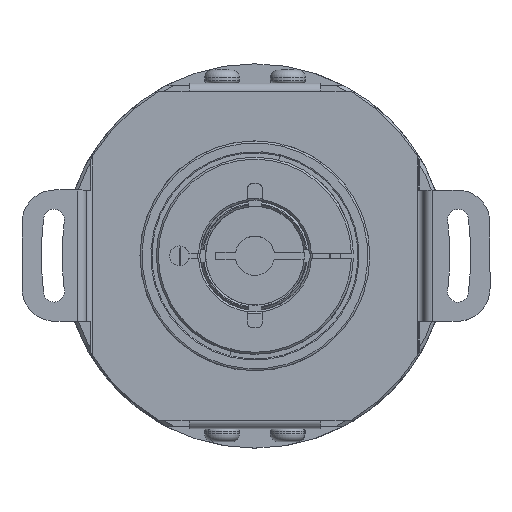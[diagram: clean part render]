
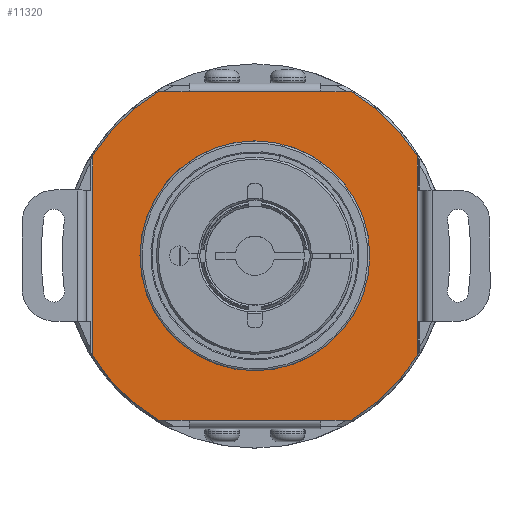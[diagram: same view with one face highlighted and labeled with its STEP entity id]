
A CAD part, top view. The second image highlights one B-rep face of the part: STEP entity #11320.
In plain terms, the highlighted planar face has unit normal (0, 0, 1).
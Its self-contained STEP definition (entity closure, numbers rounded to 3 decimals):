
#4415 = CARTESIAN_POINT ( 'NONE',  ( -10., 25., 4.194 ) ) ;
#4527 = CARTESIAN_POINT ( 'NONE',  ( 0., 17.5, 4.194 ) ) ;
#4528 = DIRECTION ( 'NONE',  ( 0., 1., 0. ) ) ;
#4529 = DIRECTION ( 'NONE',  ( 0., 0., 1. ) ) ;
#4530 = CARTESIAN_POINT ( 'NONE',  ( 0., 0., 4.194 ) ) ;
#4531 = AXIS2_PLACEMENT_3D ( 'NONE', #4530, #4529, #4528 ) ;
#4532 = CIRCLE ( 'NONE', #4531, 17.5 ) ;
#4575 = CARTESIAN_POINT ( 'NONE',  ( 0., -17.5, 4.194 ) ) ;
#4714 = CARTESIAN_POINT ( 'NONE',  ( 10., 25., 4.194 ) ) ;
#4715 = DIRECTION ( 'NONE',  ( 1., 0., 0. ) ) ;
#4716 = VECTOR ( 'NONE', #4715, 1000. ) ;
#4717 = CARTESIAN_POINT ( 'NONE',  ( 25., 25., 4.194 ) ) ;
#4718 = LINE ( 'NONE', #4717, #4716 ) ;
#4724 = DIRECTION ( 'NONE',  ( 1., 0., 0. ) ) ;
#4725 = VECTOR ( 'NONE', #4724, 1000. ) ;
#4726 = CARTESIAN_POINT ( 'NONE',  ( 5., 25., 4.194 ) ) ;
#4727 = LINE ( 'NONE', #4726, #4725 ) ;
#4749 = CARTESIAN_POINT ( 'NONE',  ( 24.7, 15.196, 4.194 ) ) ;
#4750 = DIRECTION ( 'NONE',  ( 0., 1., 0. ) ) ;
#4751 = DIRECTION ( 'NONE',  ( 0., 0., 1. ) ) ;
#4752 = CARTESIAN_POINT ( 'NONE',  ( 5., 35.2, 4.194 ) ) ;
#4753 = AXIS2_PLACEMENT_3D ( 'NONE', #4752, #4751, #4750 ) ;
#4754 = PLANE ( 'NONE',  #4753 ) ;
#4755 = FACE_BOUND ( 'NONE', #11352, .T. ) ;
#4756 = FACE_OUTER_BOUND ( 'NONE', #11303, .T. ) ;
#4757 = CARTESIAN_POINT ( 'NONE',  ( 14.697, 25., 4.194 ) ) ;
#4758 = DIRECTION ( 'NONE',  ( 0., 1., 0. ) ) ;
#4759 = DIRECTION ( 'NONE',  ( 0., 0., 1. ) ) ;
#4760 = CARTESIAN_POINT ( 'NONE',  ( 0., 0., 4.194 ) ) ;
#4761 = AXIS2_PLACEMENT_3D ( 'NONE', #4760, #4759, #4758 ) ;
#4762 = CIRCLE ( 'NONE', #4761, 29. ) ;
#4772 = CARTESIAN_POINT ( 'NONE',  ( -10., -25., 4.194 ) ) ;
#4773 = DIRECTION ( 'NONE',  ( -1., 0., 0. ) ) ;
#4774 = VECTOR ( 'NONE', #4773, 1000. ) ;
#4775 = CARTESIAN_POINT ( 'NONE',  ( -25., -25., 4.194 ) ) ;
#4776 = LINE ( 'NONE', #4775, #4774 ) ;
#4806 = DIRECTION ( 'NONE',  ( -1., 0., 0. ) ) ;
#4807 = DIRECTION ( 'NONE',  ( 0., 0., 1. ) ) ;
#4808 = CARTESIAN_POINT ( 'NONE',  ( 0., 0., 4.194 ) ) ;
#4809 = AXIS2_PLACEMENT_3D ( 'NONE', #4808, #4807, #4806 ) ;
#4810 = CIRCLE ( 'NONE', #4809, 29. ) ;
#4812 = DIRECTION ( 'NONE',  ( 1., 0., 0. ) ) ;
#4813 = VECTOR ( 'NONE', #4812, 1000. ) ;
#4814 = CARTESIAN_POINT ( 'NONE',  ( 5., -25., 4.194 ) ) ;
#4815 = LINE ( 'NONE', #4814, #4813 ) ;
#4820 = CARTESIAN_POINT ( 'NONE',  ( -14.697, -25., 4.194 ) ) ;
#4825 = DIRECTION ( 'NONE',  ( 0., -1., 0. ) ) ;
#4826 = DIRECTION ( 'NONE',  ( 0., 0., -1. ) ) ;
#4827 = AXIS2_PLACEMENT_3D ( 'NONE', #4834, #4826, #4825 ) ;
#4828 = CIRCLE ( 'NONE', #4827, 29. ) ;
#4829 = DIRECTION ( 'NONE',  ( 0., 1., 0. ) ) ;
#4830 = DIRECTION ( 'NONE',  ( 0., 0., 1. ) ) ;
#4831 = CARTESIAN_POINT ( 'NONE',  ( 0., 0., 4.194 ) ) ;
#4832 = AXIS2_PLACEMENT_3D ( 'NONE', #4831, #4830, #4829 ) ;
#4833 = CIRCLE ( 'NONE', #4832, 17.5 ) ;
#4834 = CARTESIAN_POINT ( 'NONE',  ( 0., 0., 4.194 ) ) ;
#4835 = CARTESIAN_POINT ( 'NONE',  ( 10., -25., 4.194 ) ) ;
#4837 = CARTESIAN_POINT ( 'NONE',  ( 24.7, -15.196, 4.194 ) ) ;
#4838 = DIRECTION ( 'NONE',  ( 0., -1., 0. ) ) ;
#4839 = VECTOR ( 'NONE', #4838, 1000. ) ;
#4840 = CARTESIAN_POINT ( 'NONE',  ( 24.7, 35.2, 4.194 ) ) ;
#4841 = LINE ( 'NONE', #4840, #4839 ) ;
#4842 = CARTESIAN_POINT ( 'NONE',  ( -24.7, -15.196, 4.194 ) ) ;
#4843 = DIRECTION ( 'NONE',  ( 0., -1., 0. ) ) ;
#4844 = VECTOR ( 'NONE', #4843, 1000. ) ;
#4845 = CARTESIAN_POINT ( 'NONE',  ( -24.7, 35.2, 4.194 ) ) ;
#4846 = LINE ( 'NONE', #4845, #4844 ) ;
#4847 = DIRECTION ( 'NONE',  ( 0., 1., 0. ) ) ;
#4848 = DIRECTION ( 'NONE',  ( 0., 0., -1. ) ) ;
#4849 = CARTESIAN_POINT ( 'NONE',  ( 0., 0., 4.194 ) ) ;
#4850 = AXIS2_PLACEMENT_3D ( 'NONE', #4849, #4848, #4847 ) ;
#4851 = CIRCLE ( 'NONE', #4850, 29. ) ;
#4852 = CARTESIAN_POINT ( 'NONE',  ( -24.7, 15.196, 4.194 ) ) ;
#4853 = CARTESIAN_POINT ( 'NONE',  ( -14.697, 25., 4.194 ) ) ;
#4854 = DIRECTION ( 'NONE',  ( 1., 0., 0. ) ) ;
#4855 = VECTOR ( 'NONE', #4854, 1000. ) ;
#4856 = CARTESIAN_POINT ( 'NONE',  ( -10., 25., 4.194 ) ) ;
#4857 = LINE ( 'NONE', #4856, #4855 ) ;
#4858 = DIRECTION ( 'NONE',  ( -1., 0., 0. ) ) ;
#4859 = VECTOR ( 'NONE', #4858, 1000. ) ;
#4860 = CARTESIAN_POINT ( 'NONE',  ( 10., -25., 4.194 ) ) ;
#4861 = LINE ( 'NONE', #4860, #4859 ) ;
#4862 = CARTESIAN_POINT ( 'NONE',  ( 14.697, -25., 4.194 ) ) ;
#11123 = VERTEX_POINT ( 'NONE', #4415 ) ;
#11198 = EDGE_CURVE ( 'NONE', #11207, #11199, #4532, .T. ) ;
#11199 = VERTEX_POINT ( 'NONE', #4527 ) ;
#11207 = VERTEX_POINT ( 'NONE', #4575 ) ;
#11299 = ORIENTED_EDGE ( 'NONE', *, *, #11300, .F. ) ;
#11300 = EDGE_CURVE ( 'NONE', #11123, #11306, #4727, .T. ) ;
#11303 = EDGE_LOOP ( 'NONE', ( #11378, #11317, #11304, #11299, #11369, #11372, #11375, #11345, #11356, #11346, #11362, #11368 ) ) ;
#11304 = ORIENTED_EDGE ( 'NONE', *, *, #11305, .F. ) ;
#11305 = EDGE_CURVE ( 'NONE', #11306, #11319, #4718, .T. ) ;
#11306 = VERTEX_POINT ( 'NONE', #4714 ) ;
#11317 = ORIENTED_EDGE ( 'NONE', *, *, #11318, .T. ) ;
#11318 = EDGE_CURVE ( 'NONE', #11321, #11319, #4762, .T. ) ;
#11319 = VERTEX_POINT ( 'NONE', #4757 ) ;
#11320 = ADVANCED_FACE ( 'NONE', ( #4756, #4755 ), #4754, .T. ) ;
#11321 = VERTEX_POINT ( 'NONE', #4749 ) ;
#11343 = EDGE_CURVE ( 'NONE', #11344, #11355, #4776, .T. ) ;
#11344 = VERTEX_POINT ( 'NONE', #4772 ) ;
#11345 = ORIENTED_EDGE ( 'NONE', *, *, #11363, .T. ) ;
#11346 = ORIENTED_EDGE ( 'NONE', *, *, #11361, .T. ) ;
#11347 = VERTEX_POINT ( 'NONE', #4835 ) ;
#11348 = EDGE_CURVE ( 'NONE', #11199, #11207, #4833, .T. ) ;
#11351 = EDGE_CURVE ( 'NONE', #11380, #11366, #4828, .T. ) ;
#11352 = EDGE_LOOP ( 'NONE', ( #11359, #11364 ) ) ;
#11355 = VERTEX_POINT ( 'NONE', #4820 ) ;
#11356 = ORIENTED_EDGE ( 'NONE', *, *, #11343, .F. ) ;
#11359 = ORIENTED_EDGE ( 'NONE', *, *, #11348, .F. ) ;
#11361 = EDGE_CURVE ( 'NONE', #11344, #11347, #4815, .T. ) ;
#11362 = ORIENTED_EDGE ( 'NONE', *, *, #11367, .F. ) ;
#11363 = EDGE_CURVE ( 'NONE', #11377, #11355, #4810, .T. ) ;
#11364 = ORIENTED_EDGE ( 'NONE', *, *, #11198, .F. ) ;
#11366 = VERTEX_POINT ( 'NONE', #4862 ) ;
#11367 = EDGE_CURVE ( 'NONE', #11366, #11347, #4861, .T. ) ;
#11368 = ORIENTED_EDGE ( 'NONE', *, *, #11351, .F. ) ;
#11369 = ORIENTED_EDGE ( 'NONE', *, *, #11370, .F. ) ;
#11370 = EDGE_CURVE ( 'NONE', #11371, #11123, #4857, .T. ) ;
#11371 = VERTEX_POINT ( 'NONE', #4853 ) ;
#11372 = ORIENTED_EDGE ( 'NONE', *, *, #11373, .F. ) ;
#11373 = EDGE_CURVE ( 'NONE', #11374, #11371, #4851, .T. ) ;
#11374 = VERTEX_POINT ( 'NONE', #4852 ) ;
#11375 = ORIENTED_EDGE ( 'NONE', *, *, #11376, .T. ) ;
#11376 = EDGE_CURVE ( 'NONE', #11374, #11377, #4846, .T. ) ;
#11377 = VERTEX_POINT ( 'NONE', #4842 ) ;
#11378 = ORIENTED_EDGE ( 'NONE', *, *, #11379, .F. ) ;
#11379 = EDGE_CURVE ( 'NONE', #11321, #11380, #4841, .T. ) ;
#11380 = VERTEX_POINT ( 'NONE', #4837 ) ;
